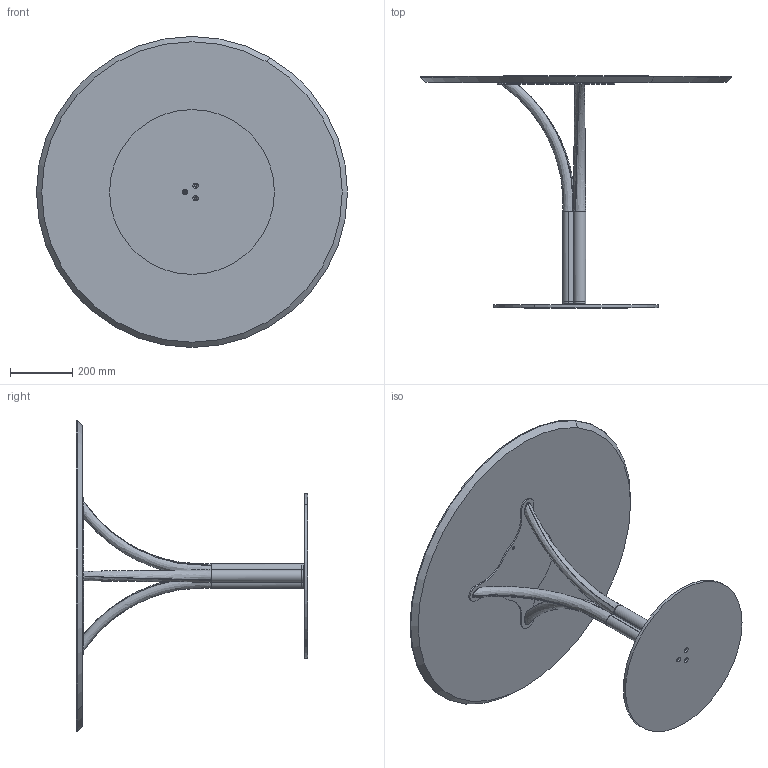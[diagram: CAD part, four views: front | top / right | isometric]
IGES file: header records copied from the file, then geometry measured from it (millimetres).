
Start section: SolidWorks IGES file using analytic representation for surfaces
Global section: file name: Y:\eforma\TECNICO\SOLIDWORKS\E-FORMA\5-TAVOLINI BISTRO\DODÒ\02 parts\DB30W.IGS; native system: SolidWorks 2022; preprocessor: SolidWorks 2022; author: eforma.tech; date: 240808.101408; units: millimetre
Bounding box: 1000 x 745 x 1000 mm (x, y, z)
Volume: 18352763 mm3; surface area: 2738064.6 mm2
Topology: 9 solids, 9 shells, 113 faces, 269 edges, 170 vertices
Faces by surface type: revolution 77, plane 24, bspline 12
